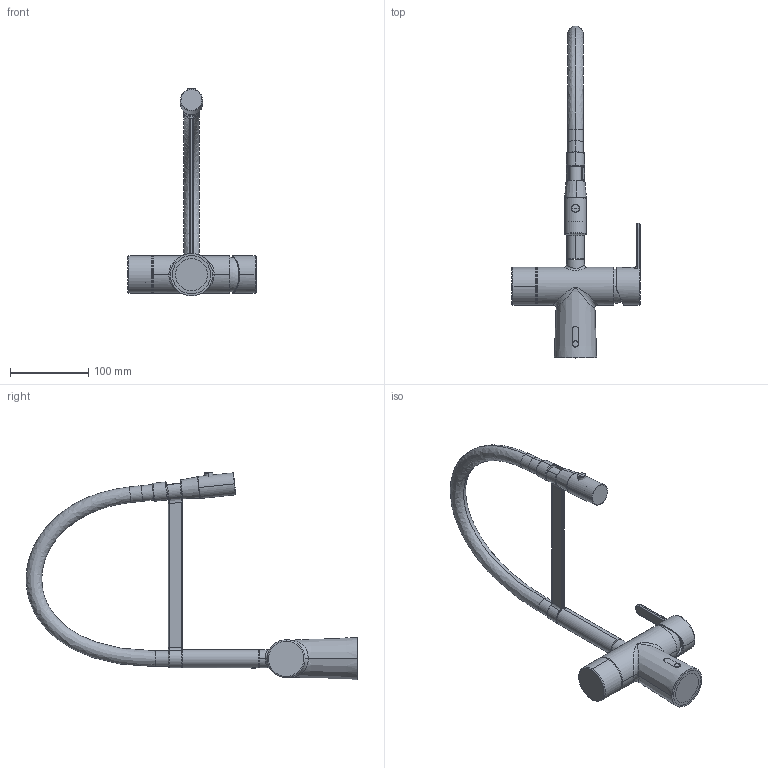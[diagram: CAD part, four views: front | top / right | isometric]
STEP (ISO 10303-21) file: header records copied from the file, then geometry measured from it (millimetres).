
FILE_DESCRIPTION((''),'2;1');
FILE_NAME('74162--00_SCRINKWRAP','2026-09-04T12:44:19',('clra1'),(''),'CREO PARAMETRIC BY PTC INC, 2022244','CREO PARAMETRIC BY PTC INC, 2022244','');
FILE_SCHEMA(('CONFIG_CONTROL_DESIGN'));
Length unit declared in the file: millimetre
Products named in the file (1): 74162--00_SCRINKWRAP
Bounding box: 163.71 x 423.12 x 264.83 mm (x, y, z)
Surface area: 108496.6 mm2 (no closed solid volume)
Topology: 0 solids, 43 shells, 200 faces, 524 edges, 357 vertices
Faces by surface type: bspline 61, cylinder 59, torus 34, plane 30, cone 8, sphere 4, extrusion 4
Entity records: 11505 total; most frequent: CARTESIAN_POINT 7082, DIRECTION 867, ORIENTED_EDGE 844, EDGE_CURVE 522, AXIS2_PLACEMENT_3D 374, VERTEX_POINT 357, CIRCLE 239, EDGE_LOOP 200
